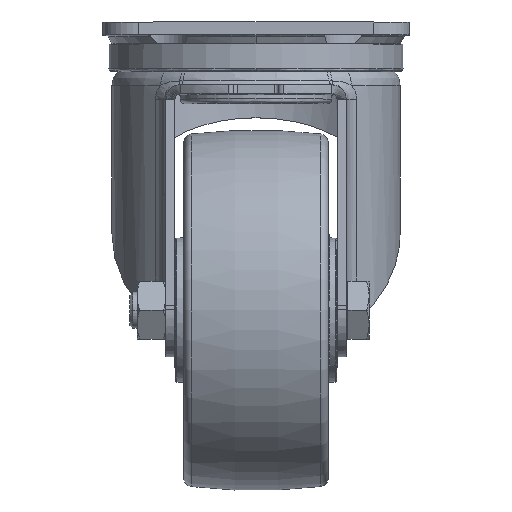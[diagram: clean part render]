
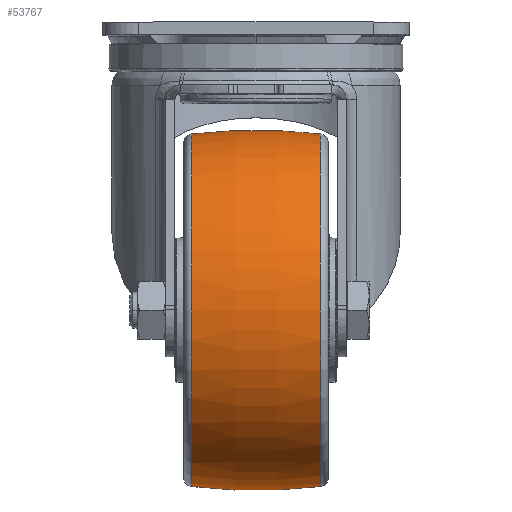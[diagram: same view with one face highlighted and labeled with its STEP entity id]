
A CAD part, top view. The second image highlights one B-rep face of the part: STEP entity #53767.
In plain terms, the highlighted toroidal (fillet/blend) face has major radius 100 mm and minor radius 150 mm.
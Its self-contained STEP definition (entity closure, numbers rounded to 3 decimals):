
#2362 = AXIS2_PLACEMENT_3D ( 'NONE', #36818, #36819, #36820 ) ;
#2368 = AXIS2_PLACEMENT_3D ( 'NONE', #36842, #36844, #36846 ) ;
#2370 = AXIS2_PLACEMENT_3D ( 'NONE', #36851, #36852, #36853 ) ;
#2371 = AXIS2_PLACEMENT_3D ( 'NONE', #36855, #36857, #36859 ) ;
#3265 = AXIS2_PLACEMENT_3D ( 'NONE', #21391, #21399, #21400 ) ;
#10997 = EDGE_CURVE ( 'NONE', #47476, #47478, #18559, .T. ) ;
#11003 = EDGE_CURVE ( 'NONE', #47494, #47496, #18587, .T. ) ;
#11005 = EDGE_CURVE ( 'NONE', #47496, #47478, #18589, .T. ) ;
#11006 = EDGE_CURVE ( 'NONE', #47494, #47476, #18594, .T. ) ;
#18559 = CIRCLE ( 'NONE', #2362, 48.941 ) ;
#18587 = CIRCLE ( 'NONE', #2368, 48.934 ) ;
#18589 = CIRCLE ( 'NONE', #2370, 150. ) ;
#18594 = CIRCLE ( 'NONE', #2371, 150. ) ;
#18697 = FACE_OUTER_BOUND ( 'NONE', #45615, .T. ) ;
#18736 = TOROIDAL_SURFACE ( 'NONE', #3265, -100., 150. ) ;
#21391 = CARTESIAN_POINT ( 'NONE',  ( 0., 0., 0. ) ) ;
#21399 = DIRECTION ( 'NONE',  ( -1., 0., 0. ) ) ;
#21400 = DIRECTION ( 'NONE',  ( 0., 0., 1. ) ) ;
#31179 = CARTESIAN_POINT ( 'NONE',  ( -17.797, 0., 48.941 ) ) ;
#31189 = CARTESIAN_POINT ( 'NONE',  ( -17.797, 0., -48.941 ) ) ;
#31197 = CARTESIAN_POINT ( 'NONE',  ( 17.853, 0., 48.934 ) ) ;
#31198 = CARTESIAN_POINT ( 'NONE',  ( 17.853, 0., -48.934 ) ) ;
#36818 = CARTESIAN_POINT ( 'NONE',  ( -17.797, 0., 0. ) ) ;
#36819 = DIRECTION ( 'NONE',  ( -1., 0., 0. ) ) ;
#36820 = DIRECTION ( 'NONE',  ( 0., 0., 1. ) ) ;
#36842 = CARTESIAN_POINT ( 'NONE',  ( 17.853, 0., 0. ) ) ;
#36844 = DIRECTION ( 'NONE',  ( -1., 0., 0. ) ) ;
#36846 = DIRECTION ( 'NONE',  ( 0., 0., 1. ) ) ;
#36851 = CARTESIAN_POINT ( 'NONE',  ( 0., 0., 100. ) ) ;
#36852 = DIRECTION ( 'NONE',  ( 0., 1., 0. ) ) ;
#36853 = DIRECTION ( 'NONE',  ( 0., 0., 1. ) ) ;
#36855 = CARTESIAN_POINT ( 'NONE',  ( 0., 0., -100. ) ) ;
#36857 = DIRECTION ( 'NONE',  ( 0., -1., 0. ) ) ;
#36859 = DIRECTION ( 'NONE',  ( 0., 0., -1. ) ) ;
#45615 = EDGE_LOOP ( 'NONE', ( #46649, #46651, #46653, #46655 ) ) ;
#46649 = ORIENTED_EDGE ( 'NONE', *, *, #11003, .T. ) ;
#46651 = ORIENTED_EDGE ( 'NONE', *, *, #11005, .T. ) ;
#46653 = ORIENTED_EDGE ( 'NONE', *, *, #10997, .F. ) ;
#46655 = ORIENTED_EDGE ( 'NONE', *, *, #11006, .F. ) ;
#47476 = VERTEX_POINT ( 'NONE', #31179 ) ;
#47478 = VERTEX_POINT ( 'NONE', #31189 ) ;
#47494 = VERTEX_POINT ( 'NONE', #31197 ) ;
#47496 = VERTEX_POINT ( 'NONE', #31198 ) ;
#53767 = ADVANCED_FACE ( 'NONE', ( #18697 ), #18736, .T. ) ;
